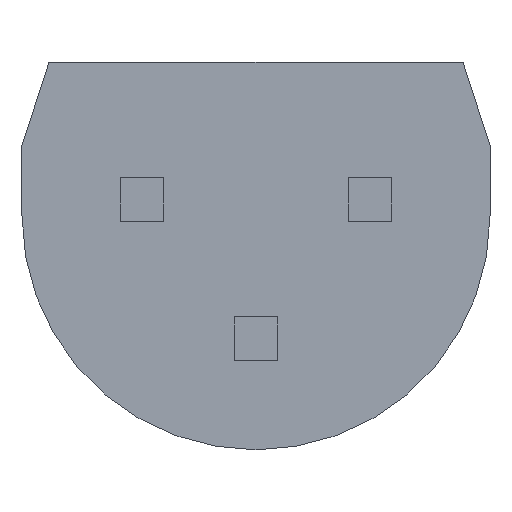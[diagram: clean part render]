
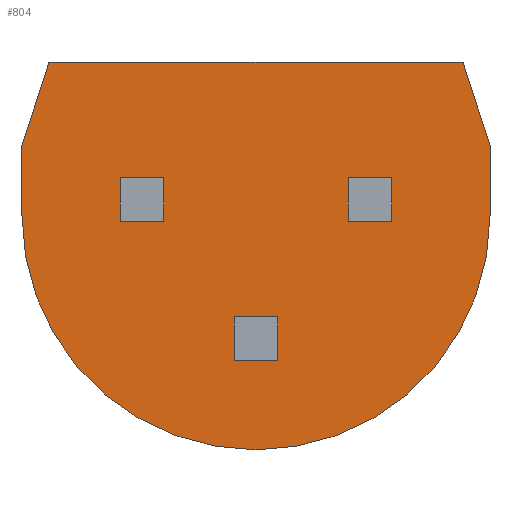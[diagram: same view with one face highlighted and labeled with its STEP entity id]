
A CAD part, front view. The second image highlights one B-rep face of the part: STEP entity #804.
In plain terms, the highlighted planar face has unit normal (0, -1, 0).
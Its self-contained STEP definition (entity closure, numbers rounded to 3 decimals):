
#554 = CARTESIAN_POINT ( 'NONE',  ( -1.335, 2.54, -0.182 ) ) ;
#555 = VERTEX_POINT ( 'NONE', #554 ) ;
#556 = CARTESIAN_POINT ( 'NONE',  ( -1.335, 2.54, 0.598 ) ) ;
#557 = VERTEX_POINT ( 'NONE', #556 ) ;
#558 = CARTESIAN_POINT ( 'NONE',  ( -1.335, 2.54, -0.182 ) ) ;
#559 = DIRECTION ( 'NONE',  ( 0., 0., 1. ) ) ;
#560 = VECTOR ( 'NONE', #559, 1000. ) ;
#561 = LINE ( 'NONE', #558, #560 ) ;
#562 = EDGE_CURVE ( 'NONE', #555, #557, #561, .T. ) ;
#603 = CARTESIAN_POINT ( 'NONE',  ( 1.27, 2.54, -2.787 ) ) ;
#604 = VERTEX_POINT ( 'NONE', #603 ) ;
#611 = CARTESIAN_POINT ( 'NONE',  ( 1.27, 2.54, -0.182 ) ) ;
#612 = DIRECTION ( 'NONE',  ( 0., 1., 0. ) ) ;
#613 = DIRECTION ( 'NONE',  ( 0., 0., -1. ) ) ;
#614 = AXIS2_PLACEMENT_3D ( 'NONE', #611, #612, #613 ) ;
#615 = CIRCLE ( 'NONE', #614, 2.605) ;
#616 = EDGE_CURVE ( 'NONE', #604, #555, #615, .T. ) ;
#637 = CARTESIAN_POINT ( 'NONE',  ( 3.875, 2.54, -0.182 ) ) ;
#638 = VERTEX_POINT ( 'NONE', #637 ) ;
#645 = CARTESIAN_POINT ( 'NONE',  ( 1.27, 2.54, -0.182 ) ) ;
#646 = DIRECTION ( 'NONE',  ( 0., 1., 0. ) ) ;
#647 = DIRECTION ( 'NONE',  ( 0., 0., -1. ) ) ;
#648 = AXIS2_PLACEMENT_3D ( 'NONE', #645, #646, #647 ) ;
#649 = CIRCLE ( 'NONE', #648, 2.605) ;
#650 = EDGE_CURVE ( 'NONE', #638, #604, #649, .T. ) ;
#660 = CARTESIAN_POINT ( 'NONE',  ( -1.035, 2.54, 1.528 ) ) ;
#661 = VERTEX_POINT ( 'NONE', #660 ) ;
#662 = CARTESIAN_POINT ( 'NONE',  ( -1.335, 2.54, 0.598 ) ) ;
#663 = DIRECTION ( 'NONE',  ( 0.307, 0., 0.952 ) ) ;
#664 = VECTOR ( 'NONE', #663, 1000. ) ;
#665 = LINE ( 'NONE', #662, #664 ) ;
#666 = EDGE_CURVE ( 'NONE', #557, #661, #665, .T. ) ;
#691 = CARTESIAN_POINT ( 'NONE',  ( 3.575, 2.54, 1.528 ) ) ;
#692 = VERTEX_POINT ( 'NONE', #691 ) ;
#693 = CARTESIAN_POINT ( 'NONE',  ( -1.035, 2.54, 1.528 ) ) ;
#694 = DIRECTION ( 'NONE',  ( 1., 0., 0. ) ) ;
#695 = VECTOR ( 'NONE', #694, 1000. ) ;
#696 = LINE ( 'NONE', #693, #695 ) ;
#697 = EDGE_CURVE ( 'NONE', #661, #692, #696, .T. ) ;
#722 = CARTESIAN_POINT ( 'NONE',  ( 3.875, 2.54, 0.598 ) ) ;
#723 = VERTEX_POINT ( 'NONE', #722 ) ;
#724 = CARTESIAN_POINT ( 'NONE',  ( 3.575, 2.54, 1.528 ) ) ;
#725 = DIRECTION ( 'NONE',  ( 0.307, 0., -0.952 ) ) ;
#726 = VECTOR ( 'NONE', #725, 1000. ) ;
#727 = LINE ( 'NONE', #724, #726 ) ;
#728 = EDGE_CURVE ( 'NONE', #692, #723, #727, .T. ) ;
#753 = CARTESIAN_POINT ( 'NONE',  ( 3.875, 2.54, 0.598 ) ) ;
#754 = DIRECTION ( 'NONE',  ( 0., 0., -1. ) ) ;
#755 = VECTOR ( 'NONE', #754, 1000. ) ;
#756 = LINE ( 'NONE', #753, #755 ) ;
#757 = EDGE_CURVE ( 'NONE', #723, #638, #756, .T. ) ;
#790 = ORIENTED_EDGE ( 'NONE', *, *, #650, .F. ) ;
#791 = ORIENTED_EDGE ( 'NONE', *, *, #757, .F. ) ;
#792 = ORIENTED_EDGE ( 'NONE', *, *, #728, .F. ) ;
#793 = ORIENTED_EDGE ( 'NONE', *, *, #697, .F. ) ;
#794 = ORIENTED_EDGE ( 'NONE', *, *, #666, .F. ) ;
#795 = ORIENTED_EDGE ( 'NONE', *, *, #562, .F. ) ;
#796 = ORIENTED_EDGE ( 'NONE', *, *, #616, .F. ) ;
#797 = EDGE_LOOP ( 'NONE', ( #790, #791, #792, #793, #794, #795, #796 ) ) ;
#798 = FACE_OUTER_BOUND ( 'NONE', #797, .T. ) ;
#799 = CARTESIAN_POINT ( 'NONE',  ( 1.27, 2.54, -0.182 ) ) ;
#800 = DIRECTION ( 'NONE',  ( 0., -1., 0. ) ) ;
#801 = DIRECTION ( 'NONE',  ( 0., 0., -1. ) ) ;
#802 = AXIS2_PLACEMENT_3D ( 'NONE', #799, #800, #801 ) ;
#803 = PLANE ( 'NONE', #802 ) ;
#804 = ADVANCED_FACE ( 'NONE', ( #798 ), #803, .T. ) ;
